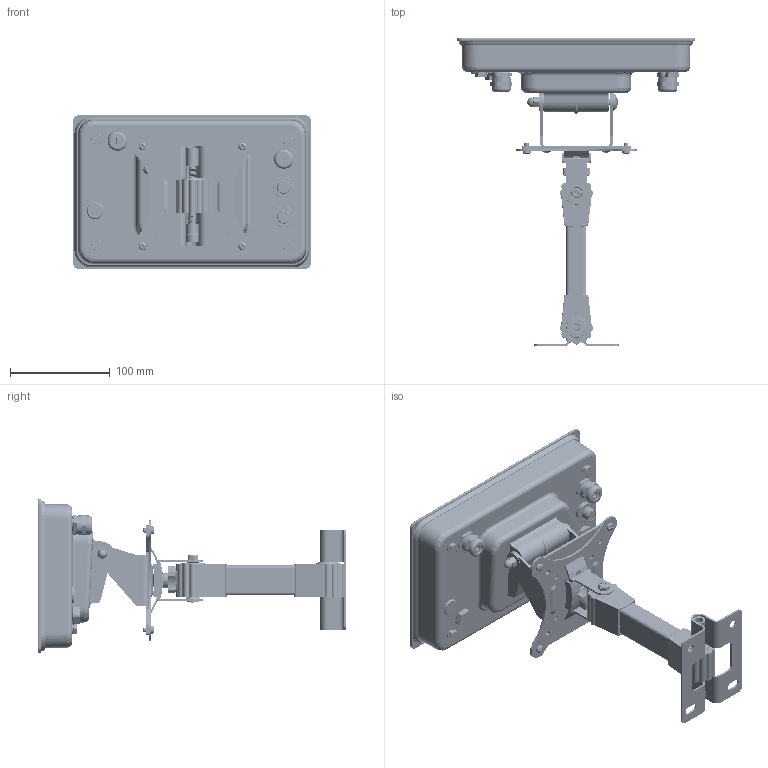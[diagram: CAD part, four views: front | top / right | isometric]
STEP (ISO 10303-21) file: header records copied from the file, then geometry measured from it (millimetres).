
FILE_DESCRIPTION((''),'2;1');
FILE_NAME('IND400_FINAL_ASM','2023-10-07T09:21:57',('tong-18'),(''),'CREO PARAMETRIC BY PTC INC, 2022014','CREO PARAMETRIC BY PTC INC, 2022014','');
FILE_SCHEMA(('CONFIG_CONTROL_DESIGN'));
Products named in the file (93): D000761747; D000762117; D000762132; D000762214; D000762140; D000762157; D000774879_ASM; D000762158; D000774874_ASM; D000762916_ASM; 72233225; 72233232; 72228893-1; 72228893-3; 72228893-2; INSERT-M4-8; 72228893_ASM; 72229267; 72242278; 72240254; 30370828_1; 30370828_2; 30370828_ASM; 72193754; D000385656_1_3; EMC_SHIELD; DIO_20201026; ACBASEBOARD20221214; IND400COREBOARD_20221209; IND400_PCBA_AC_ASM; ANALOGSCALEBOARD20221212; 72201467; 72242949; D000782467; D000782747; D000782751_ASM; 72261387; 72217972; 30766698; D000778015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
Assembly tree (168 placements, depth 5):
  IND400_FINAL_ASM
    30799031_REAR_COVER_ASSY_ASM
      D000762916_ASM
        D000761747
        D000762117
        D000762132  x2
        D000774879_ASM
          D000762214
          D000762140  x7
          D000762157
        D000774874_ASM
          D000762158
          D000762140  x2
          D000762157  x2
      72233225  x4
      72233232  x4
      72228893_ASM
        72228893-1
        72228893-3
        72228893-2  x2
        INSERT-M4-8  x4
      72229267
      72242278  x4
      72240254  x2
      30370828_ASM
        30370828_1
        30370828_2
      72193754  x4
      D000385656_1_3  x2
      IND400_PCBA_AC_ASM
        EMC_SHIELD
        DIO_20201026
        ACBASEBOARD20221214
        IND400COREBOARD_20221209
      ANALOGSCALEBOARD20221212
      72201467  x8
      72242949
      D000782751_ASM
        D000782467
        D000782747
      72261387
      72217972  x5
      30766698  x3
      D000778015
      72242279
      PAPER_SEAL_MTCT
    30799030_FRONT_COVER_ASSY_ASM
      30749318_FRONT_PANEL
      D000775416_ASM
        D000768587
        D000775407  x4
        D000775412  x2
      72242949  x8
      72242280  x4
      IND400_HMI_ASSY_ASM
        LCD_TP_ASSY
        IND400_KEYPAD_1104_ASM
          IND400-KEYBOARD_PANEL
          IND400_000
          000
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Bounding box: 239 x 309.64 x 154.5 mm (x, y, z)
Volume: 654235.8 mm3; surface area: 814651.3 mm2
Topology: 211 solids, 564 shells, 45437 faces, 126984 edges, 83100 vertices
Faces by surface type: plane 29716, cylinder 9643, extrusion 2315, sphere 1153, torus 1089, cone 848, bspline 663, revolution 10
Entity records: 1457059 total; most frequent: CARTESIAN_POINT 355620, ORIENTED_EDGE 234219, DIRECTION 213249, EDGE_CURVE 119241, VECTOR 90853, LINE 88538, VERTEX_POINT 78704, AXIS2_PLACEMENT_3D 61197
